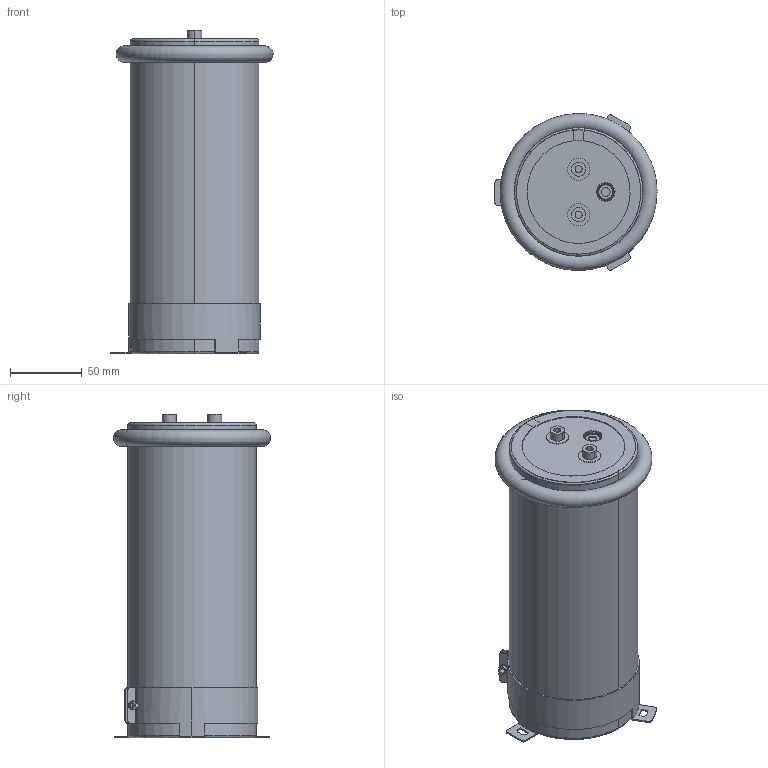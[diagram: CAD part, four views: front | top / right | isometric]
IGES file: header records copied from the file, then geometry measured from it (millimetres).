
Start section: 3D InterOp IGES (v. 2019 1.0.2), Spatial Corp. Copyright (c) 1999-2017.
Global section: file name: 90x220_Screw.igs; native system: Spatial Corp.; preprocessor: 3D InterOp ACIS/IGES; author: Noname; organization: Noname; date: 20220314.174316; units: millimetre
Bounding box: 113.35 x 109.7 x 226 mm (x, y, z)
Volume: 1744267.2 mm3; surface area: 366332.6 mm2
Topology: 9 solids, 9 shells, 352 faces, 953 edges, 591 vertices
Faces by surface type: plane 112, cylinder 110, torus 90, cone 38, sphere 2
